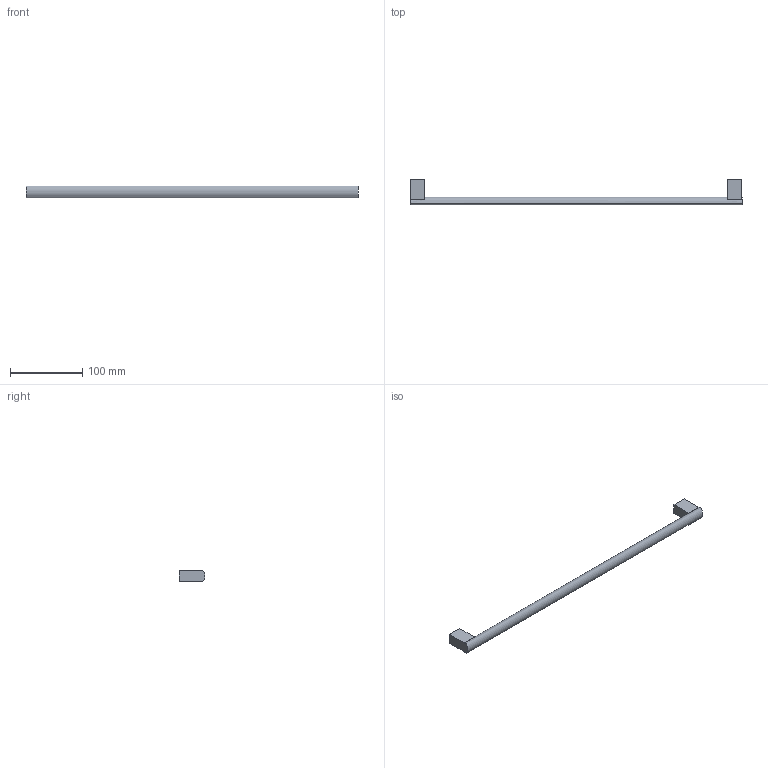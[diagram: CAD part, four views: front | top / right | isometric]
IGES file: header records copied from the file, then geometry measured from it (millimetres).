
Start section: Data from Parasolid IGES Translator 20.0.26, Copyright(c) 2006 Siemens P LM Software. All Rights Reserved.
Global section: file name: 115211.igs; native system: By Siemens PLM Incorporated; preprocessor: XPlus GENERIC/IGES 20.0.26; author: Noname; organization: Noname; date: 20230220.162453; units: millimetre
Bounding box: 460 x 35.96 x 16 mm (x, y, z)
Surface area: 23939 mm2 (no closed solid volume)
Topology: 0 solids, 0 shells, 22 faces, 102 edges, 100 vertices
Faces by surface type: extrusion 17, revolution 5
